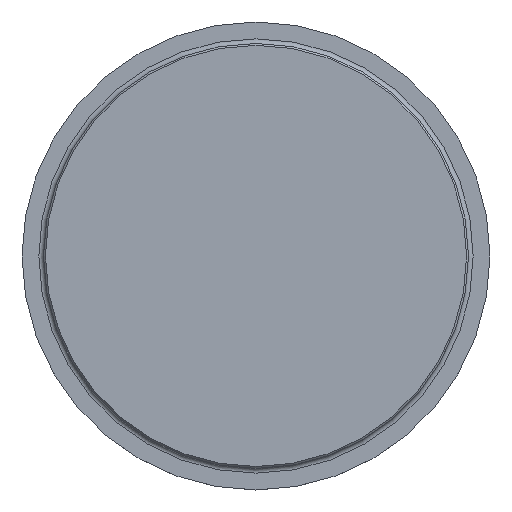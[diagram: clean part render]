
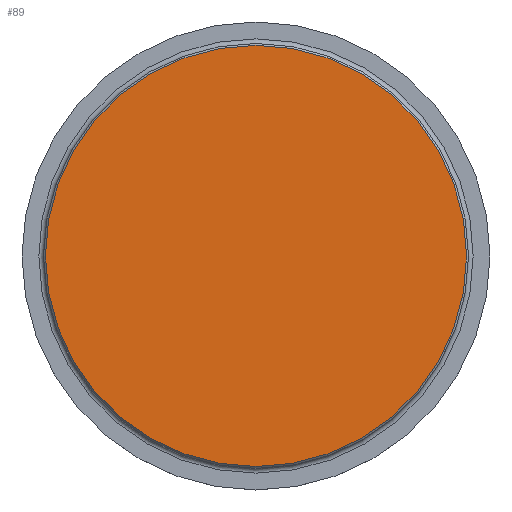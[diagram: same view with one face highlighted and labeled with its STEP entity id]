
A CAD part, top view. The second image highlights one B-rep face of the part: STEP entity #89.
In plain terms, the highlighted planar face has unit normal (0, 0, 1).
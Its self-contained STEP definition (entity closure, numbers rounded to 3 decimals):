
#89=ADVANCED_FACE('',(#95),#93,.T.);
#93=PLANE('',#232);
#95=FACE_OUTER_BOUND('',#125,.T.);
#125=EDGE_LOOP('',(#155));
#155=ORIENTED_EDGE('',*,*,#185,.T.);
#170=VERTEX_POINT('',#341);
#185=EDGE_CURVE('',#170,#170,#200,.T.);
#200=CIRCLE('',#230,11.25);
#230=AXIS2_PLACEMENT_3D('',#340,#291,#292);
#232=AXIS2_PLACEMENT_3D('',#343,#295,#296);
#291=DIRECTION('',(0.,0.,1.));
#292=DIRECTION('',(0.,-1.,0.));
#295=DIRECTION('',(0.,0.,1.));
#296=DIRECTION('',(0.,-1.,0.));
#340=CARTESIAN_POINT('',(0.,0.,0.3));
#341=CARTESIAN_POINT('',(0.,-11.25,0.3));
#343=CARTESIAN_POINT('',(0.,0.,0.3));
